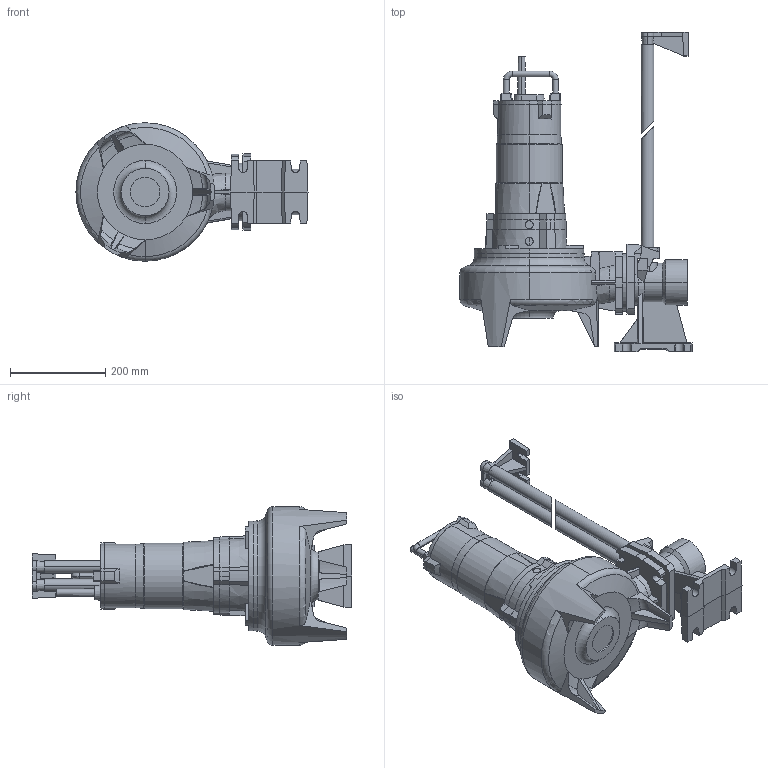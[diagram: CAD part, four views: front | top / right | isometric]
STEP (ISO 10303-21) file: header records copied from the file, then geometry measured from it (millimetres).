
FILE_DESCRIPTION (( 'STEP AP203' ), '1' );
FILE_NAME ('65FWC-V-52 COUPLING SYSTEM.STEP', '2025-03-22T09:00:14', ( '' ), ( '' ), 'SwSTEP 2.0', 'SolidWorks 2023', '' );
FILE_SCHEMA (( 'CONFIG_CONTROL_DESIGN' ));
Length unit declared in the file: millimetre
Products named in the file (1): 65FWC-V-52 COUPLING SYSTEM
Bounding box: 486.27 x 670.22 x 290 mm (x, y, z)
Volume: 15192769.4 mm3; surface area: 831873.1 mm2
Topology: 2 solids, 3 shells, 530 faces, 1414 edges, 914 vertices
Faces by surface type: plane 288, cylinder 114, cone 86, torus 25, bspline 17
Entity records: 18107 total; most frequent: CARTESIAN_POINT 5293, ORIENTED_EDGE 2828, DIRECTION 2495, EDGE_CURVE 1414, VERTEX_POINT 914, AXIS2_PLACEMENT_3D 893, VECTOR 709, LINE 709
